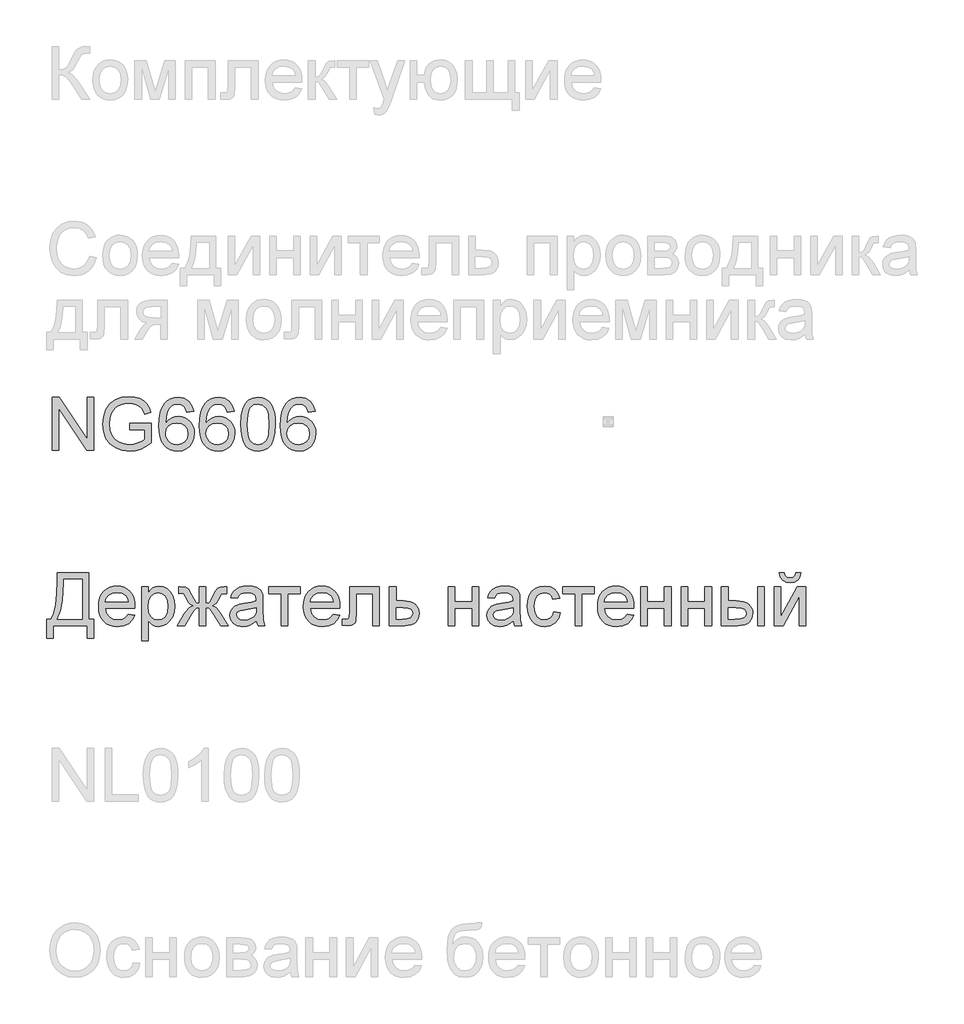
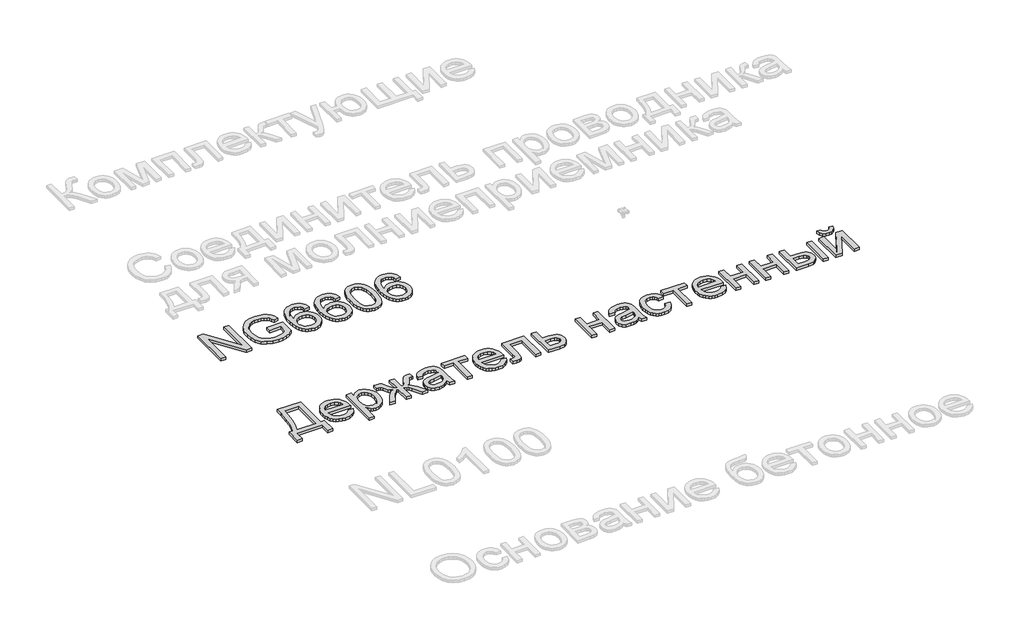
# One storey, part 59 of 124: 2 proxies.
"""IFC4 building model written with IfcOpenShell, lengths in millimetres."""

import ifcopenshell
import ifcopenshell.guid

model = None  # the IFC model being written
_history = None  # IfcOwnerHistory: only IFC2X3 demands one
_inside = {}  # id of a spatial element -> (the spatial element, [elements in it])
_under = {}  # id of a project, library or spatial element -> (it, [spatial elements below it])
_declared = {}  # id of a project -> (the project, [libraries it declares])
_typed = {}  # id of a type object -> (the type object, [elements of that type])
_made_of = {}  # id of a material, layer set ... -> (it, [elements and type objects made of it])


def new_model(schema):
    """Start an empty IFC model of exactly this schema.

    Asked for "IFC4X3", IfcOpenShell would pick the latest addendum, in which some entities
    have other attributes; the version numbers below select the first issue.
    IFC2X3 requires an IfcOwnerHistory on every rooted entity: one is made here for all.
    """
    global model, _history
    if schema == "IFC4X3":
        model = ifcopenshell.file(schema_version=(4, 3, 0, 0))
    else:
        model = ifcopenshell.file(schema=schema)
    _inside.clear()
    _under.clear()
    _declared.clear()
    _typed.clear()
    _made_of.clear()
    _history = None
    if model.schema == "IFC2X3":
        org = make("IfcOrganization", Name="unknown")
        user = make(
            "IfcPersonAndOrganization",
            ThePerson=make("IfcPerson", FamilyName="unknown"),
            TheOrganization=org,
        )
        app = make(
            "IfcApplication",
            ApplicationDeveloper=org,
            Version="unknown",
            ApplicationFullName="unknown",
            ApplicationIdentifier="unknown",
        )
        _history = make(
            "IfcOwnerHistory",
            OwningUser=user,
            OwningApplication=app,
            ChangeAction="ADDED",
            CreationDate=0,
        )
    return model


def make(cls, **values):
    """One entity of the class cls with the attributes given. An attribute that is None is left unset."""
    return model.create_entity(
        cls, **{name: value for name, value in values.items() if value is not None}
    )


def rooted(cls, **values):
    """An entity with a GlobalId (a new one), such as an element, a storey or a relation."""
    return make(cls, GlobalId=ifcopenshell.guid.new(), OwnerHistory=_history, **values)


def si_unit(unit_type, name, prefix=None):
    """IfcSIUnit, for example si_unit("LENGTHUNIT", "METRE", prefix="MILLI")."""
    return make("IfcSIUnit", UnitType=unit_type, Prefix=prefix, Name=name)


def assignment(units):
    """IfcUnitAssignment: the units of a project."""
    return None if units is None else make("IfcUnitAssignment", Units=units)


def point(xyz):
    """IfcCartesianPoint."""
    return None if xyz is None else make("IfcCartesianPoint", Coordinates=xyz)


def direction(xyz):
    """IfcDirection."""
    return None if xyz is None else make("IfcDirection", DirectionRatios=xyz)


def frame(location, z_axis=None, x_axis=None):
    """IfcAxis2Placement3D, a coordinate frame: its origin and axes. An axis left out is left unset."""
    return make(
        "IfcAxis2Placement3D",
        Location=point(location),
        Axis=direction(z_axis),
        RefDirection=direction(x_axis),
    )


def origin():
    """The frame at (0, 0, 0) with its axes left unset."""
    return frame((0.0, 0.0, 0.0))


def origin_with_axes():
    """The frame at (0, 0, 0) with the z axis (0, 0, 1) and the x axis (1, 0, 0) written out."""
    return frame((0.0, 0.0, 0.0), z_axis=(0.0, 0.0, 1.0), x_axis=(1.0, 0.0, 0.0))


def place(relative_to, where):
    """IfcLocalPlacement: puts the frame where relative to a parent placement (None: the world)."""
    return make(
        "IfcLocalPlacement", PlacementRelTo=relative_to, RelativePlacement=where
    )


def context(
    kind, dimensions, precision=None, world=None, true_north=None, identifier=None
):
    """IfcGeometricRepresentationContext, for example the 3D "Model" context."""
    return make(
        "IfcGeometricRepresentationContext",
        ContextIdentifier=identifier,
        ContextType=kind,
        CoordinateSpaceDimension=dimensions,
        Precision=precision,
        WorldCoordinateSystem=world,
        TrueNorth=true_north,
    )


def project(units=None, contexts=None):
    """IfcProject with its units and contexts."""
    return rooted(
        "IfcProject",
        Name="project",
        RepresentationContexts=contexts,
        UnitsInContext=assignment(units),
    )


def spatial(cls, under=None, at=None, **own):
    """A site, building, storey or space (cls), placed at a placement, below another one or the project."""
    s = rooted(cls, ObjectPlacement=at, **own)
    if under is not None:
        _under.setdefault(under.id(), (under, []))[1].append(s)
    return s


def polyline(points):
    """IfcPolyline through the points."""
    return make("IfcPolyline", Points=[point(p) for p in points])


def outline(outer, holes=None, kind="AREA"):
    """IfcArbitraryClosedProfileDef: a profile drawn as a closed curve; with holes, ...WithVoids."""
    if holes is None:
        return make("IfcArbitraryClosedProfileDef", ProfileType=kind, OuterCurve=outer)
    return make(
        "IfcArbitraryProfileDefWithVoids",
        ProfileType=kind,
        OuterCurve=outer,
        InnerCurves=holes,
    )


def extrude(swept, where, along, depth):
    """IfcExtrudedAreaSolid: the profile swept, set in the frame where, extruded along a direction by depth."""
    return make(
        "IfcExtrudedAreaSolid",
        SweptArea=swept,
        Position=where,
        ExtrudedDirection=direction(along),
        Depth=depth,
    )


def shape(context_of_items, identifier, shape_type, items):
    """IfcShapeRepresentation: the items that make up one representation, for example the "Body"."""
    return make(
        "IfcShapeRepresentation",
        ContextOfItems=context_of_items,
        RepresentationIdentifier=identifier,
        RepresentationType=shape_type,
        Items=items,
    )


def made_of(thing, what):
    """Note that an element or type object is made of a material, layer set ...; save() writes the relation."""
    if what is not None:
        _made_of.setdefault(what.id(), (what, []))[1].append(thing)
    return thing


def element(
    cls,
    number,
    at=None,
    inside=None,
    cuts=None,
    type_object=None,
    material=None,
    context=None,
    identifier="Body",
    shape_type=None,
    held_by="IfcProductDefinitionShape",
    body=None,
    shapes=None,
    **own,
):
    """One element of the class cls, such as IfcWall. Its Tag is "e" and its number.

    at: its placement. inside: the storey or other place that contains it. cuts: it is an
    opening in that element (IfcRelVoidsElement). A single representation is given by context,
    identifier, shape_type and body (its items); several are given by shapes. held_by: the class
    of the entity that holds the representations. save() writes the other relations.
    """
    e = rooted(cls, Tag="e%d" % number, ObjectPlacement=at, **own)
    if body is not None:
        shapes = [shape(context, identifier, shape_type, body)]
    if shapes is not None:
        e.Representation = make(held_by, Representations=shapes)
    if inside is not None:
        _inside.setdefault(inside.id(), (inside, []))[1].append(e)
    if cuts is not None:
        rooted(
            "IfcRelVoidsElement", RelatingBuildingElement=cuts, RelatedOpeningElement=e
        )
    if type_object is not None:
        _typed.setdefault(type_object.id(), (type_object, []))[1].append(e)
    return made_of(e, material)


def aggregate(whole, parts):
    """IfcRelAggregates: a whole, such as a stair, and the parts it consists of."""
    return rooted("IfcRelAggregates", RelatingObject=whole, RelatedObjects=parts)


def save(model, path):
    """Write the relations noted so far, then the file.

    IfcRelAggregates (storeys below a building ...), IfcRelContainedInSpatialStructure (elements
    in a storey), IfcRelDefinesByType, IfcRelAssociatesMaterial and IfcRelDeclares: one each for
    every whole, place, type object, material and project.
    """
    for whole, parts in _under.values():
        aggregate(whole, parts)
    for where, things in _inside.values():
        rooted(
            "IfcRelContainedInSpatialStructure",
            RelatedElements=things,
            RelatingStructure=where,
        )
    for kind, things in _typed.values():
        rooted("IfcRelDefinesByType", RelatedObjects=things, RelatingType=kind)
    for what, things in _made_of.values():
        rooted("IfcRelAssociatesMaterial", RelatedObjects=things, RelatingMaterial=what)
    for by, libraries in _declared.values():
        rooted("IfcRelDeclares", RelatingContext=by, RelatedDefinitions=libraries)
    model.write(path)


model = new_model("IFC4")

# Units and contexts
model_context = context("Model", 3, world=origin())
ifc_project = project(units=[si_unit("LENGTHUNIT", "METRE", prefix="MILLI")], contexts=[model_context])

# Site, building, storey
site = spatial("IfcSite", under=ifc_project)
building = spatial("IfcBuilding", under=site)
storey = spatial("IfcBuildingStorey", under=building, Name="Этаж 01", Elevation=0.0)

# Proxies
placement = place(None, origin())
element("IfcBuildingElementProxy", 1, Name="300", ObjectType="300", at=placement, inside=storey, context=model_context, shape_type="SweptSolid", body=[
    extrude(outline(polyline([(1299.8220677, -52074.498362), (1299.8220677, -51773.1294316), (1340.1419344, -51773.1294316), (1497.5954283, -52011.8848464), (1497.5954283, -51773.1294316), (1535.2665446, -51773.1294316), (1535.2665446, -52074.498362), (1494.9466779, -52074.498362), (1337.493184, -51835.6693707), (1337.493184, -52074.498362), (1299.8220677, -52074.498362)])), origin_with_axes(), (0.0, 0.0, 1.0), 20.0),
    extrude(outline(polyline([(1742.4576843, -51956.7761235), (1742.4576843, -51919.1050072), (1864.8888123, -51919.1050072), (1864.8888123, -52031.7504742), (1835.1363559, -52052.4438364), (1804.4458005, -52067.2878749), (1772.8907223, -52076.2274074), (1740.5446979, -52079.2072515), (1698.2842537, -52074.4707709), (1660.0889056, -52060.2613288), (1628.3590835, -52037.075566), (1605.4952175, -52005.4101233), (1591.6720515, -51967.4263073), (1587.0643295, -51925.2854248), (1591.6536574, -51882.8410396), (1605.4216411, -51843.3581044), (1627.7980634, -51810.2395278), (1658.2127074, -51786.8882182), (1695.2584243, -51773.0374611), (1737.5280656, -51768.420542), (1768.5589118, -51771.0968835), (1796.4627612, -51779.1259081), (1819.9612236, -51791.9282015), (1837.7759092, -51808.9243497), (1850.9552817, -51830.93289), (1860.5478047, -51858.77236), (1825.8197444, -51868.5580211), (1818.0666313, -51848.7015904), (1808.6396552, -51833.7195962), (1796.1684556, -51822.4256189), (1779.282672, -51813.6332392), (1759.1503298, -51807.9770535), (1736.9394544, -51806.0916583), (1710.9393944, -51808.1242063), (1688.7101248, -51814.2218504), (1670.3344191, -51823.6212354), (1655.8950508, -51835.5590061), (1636.5076697, -51864.5848956), (1627.6785018, -51893.0221738), (1624.7354458, -51923.7403204), (1628.27631, -51959.7651648), (1638.8989026, -51989.4072565), (1656.2813269, -52012.4550635), (1680.1016861, -52028.6970536), (1707.9779443, -52038.3263648), (1737.5280656, -52041.5361352), (1763.6200961, -52039.1173111), (1789.0683331, -52031.8608388), (1811.1688439, -52021.8636455), (1827.217696, -52011.2226588), (1827.217696, -51956.7761235), (1742.4576843, -51956.7761235)])), origin_with_axes(), (0.0, 0.0, 1.0), 20.0),
    extrude(outline(polyline([(2105.0421787, -51853.1805537), (2067.3710624, -51857.8894432), (2061.3010095, -51839.219432), (2053.097241, -51826.4723209), (2036.0091223, -51814.7184911), (2015.3525483, -51810.8005479), (1997.8413653, -51813.0814162), (1981.360252, -51819.9240213), (1967.2059922, -51834.3357985), (1955.6453005, -51854.1738351), (1947.8370051, -51882.2340343), (1944.9399344, -51921.3122992), (1960.0506874, -51903.6815546), (1978.1596786, -51891.2563402), (1998.2552326, -51883.8895033), (2019.3256739, -51881.4338909), (2037.425468, -51883.1123525), (2054.1273106, -51888.1477373), (2069.4312016, -51896.5400454), (2083.337141, -51908.2892766), (2094.8932342, -51922.6964552), (2103.1475865, -51939.0626055), (2108.1001978, -51957.3877274), (2109.7510683, -51977.6718209), (2106.6424654, -52004.6467682), (2097.3166568, -52029.6535468), (2082.5461947, -52050.8619438), (2063.1036313, -52066.4417463), (2039.8718833, -52076.0158752), (2013.7338675, -52079.2072515), (1991.276971, -52077.0919301), (1970.9951767, -52070.7459657), (1952.8884848, -52060.1693583), (1936.9568951, -52045.362108), (1923.9683614, -52025.6988153), (1914.6908374, -52000.554081), (1909.1243229, -51969.9279049), (1907.2688181, -51933.820287), (1909.3289573, -51893.339472), (1915.5093748, -51858.7907541), (1925.8100707, -51830.1741334), (1940.2310449, -51807.4896099), (1955.8614312, -51792.4570319), (1973.984218, -51781.7194761), (1994.5994053, -51775.2769427), (2017.7069931, -51773.1294316), (2050.7611903, -51778.4453264), (2077.2302999, -51794.3930109), (2095.7715525, -51819.7216862), (2105.0421787, -51853.1805537)]), holes=[polyline([(1944.9399344, -51977.0832097), (1947.1196353, -51993.7758552), (1953.6587377, -52009.7143427), (1963.8122808, -52023.417947), (1976.8353034, -52033.4059431), (1992.5530617, -52039.5035872), (2010.7908116, -52041.5361352), (2035.6504374, -52037.3238864), (2055.1941684, -52024.6871399), (2067.8585061, -52004.8215121), (2072.079952, -51978.9226197), (2067.9136884, -51954.0629938), (2055.4148976, -51935.107874), (2035.5400728, -51923.1057239), (2009.2457072, -51919.1050072), (1984.4228696, -51923.1057239), (1963.665128, -51935.107874), (1949.6212328, -51953.6031413), (1944.9399344, -51977.0832097)])]), origin_with_axes(), (0.0, 0.0, 1.0), 20.0),
    extrude(outline(polyline([(2335.7777661, -51853.1805537), (2298.1066498, -51857.8894432), (2292.0365969, -51839.219432), (2283.8328284, -51826.4723209), (2266.7447097, -51814.7184911), (2246.0881357, -51810.8005479), (2228.5769527, -51813.0814162), (2212.0958393, -51819.9240213), (2197.9415796, -51834.3357985), (2186.3808879, -51854.1738351), (2178.5725925, -51882.2340343), (2175.6755218, -51921.3122992), (2190.7862748, -51903.6815546), (2208.895266, -51891.2563402), (2228.99082, -51883.8895033), (2250.0612612, -51881.4338909), (2268.1610554, -51883.1123525), (2284.862898, -51888.1477373), (2300.166789, -51896.5400454), (2314.0727284, -51908.2892766), (2325.6288216, -51922.6964552), (2333.8831738, -51939.0626055), (2338.8357852, -51957.3877274), (2340.4866556, -51977.6718209), (2337.3780528, -52004.6467682), (2328.0522442, -52029.6535468), (2313.2817821, -52050.8619438), (2293.8392187, -52066.4417463), (2270.6074707, -52076.0158752), (2244.4694549, -52079.2072515), (2222.0125584, -52077.0919301), (2201.7307641, -52070.7459657), (2183.6240722, -52060.1693583), (2167.6924825, -52045.362108), (2154.7039488, -52025.6988153), (2145.4264248, -52000.554081), (2139.8599103, -51969.9279049), (2138.0044055, -51933.820287), (2140.0645447, -51893.339472), (2146.2449622, -51858.7907541), (2156.5456581, -51830.1741334), (2170.9666323, -51807.4896099), (2186.5970185, -51792.4570319), (2204.7198053, -51781.7194761), (2225.3349926, -51775.2769427), (2248.4425805, -51773.1294316), (2281.4967777, -51778.4453264), (2307.9658873, -51794.3930109), (2326.5071398, -51819.7216862), (2335.7777661, -51853.1805537)]), holes=[polyline([(2175.6755218, -51977.0832097), (2177.8552226, -51993.7758552), (2184.3943251, -52009.7143427), (2194.5478682, -52023.417947), (2207.5708908, -52033.4059431), (2223.288649, -52039.5035872), (2241.5263989, -52041.5361352), (2266.3860248, -52037.3238864), (2285.9297558, -52024.6871399), (2298.5940934, -52004.8215121), (2302.8155393, -51978.9226197), (2298.6492757, -51954.0629938), (2286.150485, -51935.107874), (2266.2756602, -51923.1057239), (2239.9812946, -51919.1050072), (2215.1584569, -51923.1057239), (2194.4007154, -51935.107874), (2180.3568202, -51953.6031413), (2175.6755218, -51977.0832097)])]), origin_with_axes(), (0.0, 0.0, 1.0), 20.0),
    extrude(outline(polyline([(2373.4488824, -51926.2419179), (2376.2171944, -51878.0033913), (2384.5221305, -51839.5321317), (2398.2809171, -51810.2395278), (2417.4107808, -51789.5369685), (2442.0496775, -51777.2313158), (2472.3355627, -51773.1294316), (2495.5489166, -51775.5574527), (2516.3342493, -51782.8415162), (2533.7166736, -51794.6965135), (2546.7213021, -51810.8373361), (2556.5437514, -51831.1260281), (2564.3796379, -51855.4246339), (2569.5115917, -51886.2807362), (2571.222243, -51926.2419179), (2568.4815222, -51974.2045331), (2560.2593596, -52012.5838222), (2546.5833464, -52041.9040172), (2527.4810738, -52062.68935), (2502.7869949, -52075.0777761), (2472.3355627, -52079.2072515), (2451.5870182, -52077.4138268), (2433.1929184, -52072.0335526), (2417.1532634, -52063.066429), (2403.4680532, -52050.5124559), (2390.334666, -52027.8187353), (2380.9536751, -51999.5424055), (2375.3250806, -51965.6834664), (2373.4488824, -51926.2419179)]), holes=[polyline([(2411.1199987, -51926.1683415), (2415.5345827, -51985.4249339), (2421.0528126, -52005.6929326), (2428.7783345, -52019.7207329), (2448.4968094, -52036.0822847), (2472.3355627, -52041.5361352), (2496.174316, -52036.0638906), (2515.892791, -52019.6471565), (2523.6183128, -52005.5963636), (2529.1365428, -51985.3329634), (2533.5511267, -51926.1683415), (2529.2836956, -51868.2453214), (2523.9494066, -51848.0440013), (2516.4814021, -51833.682808), (2496.7997154, -51816.5211129), (2471.8941043, -51810.8005479), (2448.3128684, -51815.8405312), (2429.3669457, -51830.9604812), (2421.3839064, -51846.595466), (2415.6817355, -51867.6751043), (2411.1199987, -51926.1683415)])]), origin_with_axes(), (0.0, 0.0, 1.0), 20.0),
    extrude(outline(polyline([(2797.2489409, -51853.1805537), (2759.5778246, -51857.8894432), (2753.5077716, -51839.219432), (2745.3040031, -51826.4723209), (2728.2158845, -51814.7184911), (2707.5593104, -51810.8005479), (2690.0481275, -51813.0814162), (2673.5670141, -51819.9240213), (2659.4127543, -51834.3357985), (2647.8520626, -51854.1738351), (2640.0437673, -51882.2340343), (2637.1466966, -51921.3122992), (2652.2574495, -51903.6815546), (2670.3664407, -51891.2563402), (2690.4619947, -51883.8895033), (2711.532436, -51881.4338909), (2729.6322301, -51883.1123525), (2746.3340727, -51888.1477373), (2761.6379637, -51896.5400454), (2775.5439031, -51908.2892766), (2787.0999963, -51922.6964552), (2795.3543486, -51939.0626055), (2800.3069599, -51957.3877274), (2801.9578304, -51977.6718209), (2798.8492275, -52004.6467682), (2789.523419, -52029.6535468), (2774.7529569, -52050.8619438), (2755.3103934, -52066.4417463), (2732.0786454, -52076.0158752), (2705.9406297, -52079.2072515), (2683.4837331, -52077.0919301), (2663.2019389, -52070.7459657), (2645.0952469, -52060.1693583), (2629.1636573, -52045.362108), (2616.1751236, -52025.6988153), (2606.8975995, -52000.554081), (2601.3310851, -51969.9279049), (2599.4755803, -51933.820287), (2601.5357194, -51893.339472), (2607.7161369, -51858.7907541), (2618.0168328, -51830.1741334), (2632.437807, -51807.4896099), (2648.0681933, -51792.4570319), (2666.1909801, -51781.7194761), (2686.8061674, -51775.2769427), (2709.9137552, -51773.1294316), (2742.9679525, -51778.4453264), (2769.437062, -51794.3930109), (2787.9783146, -51819.7216862), (2797.2489409, -51853.1805537)]), holes=[polyline([(2637.1466966, -51977.0832097), (2639.3263974, -51993.7758552), (2645.8654998, -52009.7143427), (2656.0190429, -52023.417947), (2669.0420655, -52033.4059431), (2684.7598238, -52039.5035872), (2702.9975737, -52041.5361352), (2727.8571995, -52037.3238864), (2747.4009305, -52024.6871399), (2760.0652682, -52004.8215121), (2764.2867141, -51978.9226197), (2760.1204505, -51954.0629938), (2747.6216597, -51935.107874), (2727.7468349, -51923.1057239), (2701.4524693, -51919.1050072), (2676.6296317, -51923.1057239), (2655.8718901, -51935.107874), (2641.8279949, -51953.6031413), (2637.1466966, -51977.0832097)])]), origin_with_axes(), (0.0, 0.0, 1.0), 20.0),
])
element("IfcBuildingElementProxy", 2, Name="300", ObjectType="300", at=placement, inside=storey, context=model_context, shape_type="SweptSolid", body=[
    extrude(outline(polyline([(1328.0754049, -52773.1294316), (1507.0132074, -52773.1294316), (1507.0132074, -53036.8272457), (1535.2665446, -53036.8272457), (1535.2665446, -53145.1317051), (1497.5954283, -53145.1317051), (1497.5954283, -53074.498362), (1304.5309572, -53074.498362), (1304.5309572, -53145.1317051), (1266.8598409, -53145.1317051), (1266.8598409, -53036.8272457), (1290.4042886, -53036.8272457), (1306.885402, -53002.6556069), (1318.6576258, -52954.5872257), (1325.7209602, -52892.6221021), (1328.0754049, -52816.7602362), (1328.0754049, -52773.1294316)]), holes=[polyline([(1469.3420911, -52810.8005479), (1365.7465212, -52810.8005479), (1365.7465212, -52825.9572861), (1358.0945757, -52929.1849739), (1346.7638103, -52988.8370394), (1328.0754049, -53036.8272457), (1469.3420911, -53036.8272457), (1469.3420911, -52810.8005479)])]), origin_with_axes(), (0.0, 0.0, 1.0), 20.0),
    extrude(outline(polyline([(1732.5984468, -53008.5739085), (1769.5337991, -53013.282798), (1756.225668, -53041.1130709), (1734.9896798, -53061.9167978), (1706.3040812, -53074.8846381), (1670.6471188, -53079.2072515), (1647.2728166, -53077.3425497), (1626.4460971, -53071.7484441), (1608.1669605, -53062.4249348), (1592.4354067, -53049.3720217), (1579.7848645, -53032.9529884), (1570.748763, -53013.5311184), (1565.3271021, -52991.1064115), (1563.5198818, -52965.6788678), (1565.3454962, -52939.3891007), (1570.8223394, -52916.2171336), (1579.9504114, -52896.1629663), (1592.7297123, -52879.226599), (1608.4198793, -52865.771315), (1626.2805502, -52856.1603979), (1646.3117249, -52850.3938476), (1668.5134033, -52848.4716642), (1690.000011, -52850.3892491), (1709.4310782, -52856.1420038), (1726.8066047, -52865.7299283), (1742.1265905, -52879.1530226), (1754.6322791, -52896.0526017), (1763.5649138, -52916.0699808), (1768.9244946, -52939.2051598), (1770.7110215, -52965.4581386), (1770.4902923, -52975.6116817), (1601.1909981, -52975.6116817), (1607.7117065, -53003.8098366), (1622.8592477, -53024.5399871), (1644.7206352, -53037.2870982), (1671.3828828, -53041.5361352), (1691.4324516, -53039.5679666), (1708.3182351, -53033.6634605), (1722.0402336, -53023.4547352), (1732.5984468, -53008.5739085)]), holes=[polyline([(1601.1909981, -52937.9405654), (1733.0399052, -52937.9405654), (1727.9447396, -52918.0381495), (1717.9567434, -52903.8011162), (1695.9941883, -52890.5573644), (1668.3662505, -52886.1427805), (1642.9731957, -52889.6652506), (1621.9763309, -52900.2326609), (1607.3806127, -52916.7045772), (1601.1909981, -52937.9405654)])]), origin_with_axes(), (0.0, 0.0, 1.0), 20.0),
    extrude(outline(polyline([(1808.3821378, -53159.2583737), (1808.3821378, -52853.1805537), (1846.0532541, -52853.1805537), (1846.0532541, -52890.115906), (1858.3405128, -52871.8965502), (1872.0992994, -52858.8827246), (1888.1389544, -52851.0744293), (1907.2688181, -52848.4716642), (1932.7446463, -52852.1136959), (1955.0199011, -52863.0397912), (1973.1564835, -52880.5877623), (1986.2162943, -52904.0954218), (1994.1073631, -52931.8521184), (1996.7377194, -52962.1472007), (1993.7670722, -52994.3644664), (1984.8551309, -53023.1788237), (1970.2870039, -53047.1279416), (1950.3477998, -53064.7494891), (1927.1252488, -53075.5928109), (1902.7070814, -53079.2072515), (1885.3890365, -53076.7884274), (1869.9287956, -53069.5319551), (1856.6942408, -53058.5782687), (1846.0532541, -53045.0678024), (1846.0532541, -53159.2583737), (1808.3821378, -53159.2583737)]), holes=[polyline([(1846.0532541, -52965.6052914), (1850.1275472, -52999.3768586), (1862.3504265, -53022.9948827), (1880.3858413, -53036.9008221), (1901.897741, -53041.5361352), (1923.7591286, -53036.7352752), (1942.2543959, -53022.3326951), (1954.8635513, -52997.8501483), (1959.0666031, -52962.8093883), (1954.9647188, -52929.2217621), (1942.6590661, -52905.2726442), (1924.6512424, -52890.9252464), (1903.4428454, -52886.1427805), (1882.1516749, -52891.2287491), (1863.4540725, -52906.4866548), (1850.4034587, -52931.4382511), (1846.0532541, -52965.6052914)])]), origin_with_axes(), (0.0, 0.0, 1.0), 20.0),
    extrude(outline(polyline([(2175.6755218, -52853.1805537), (2175.6755218, -52947.3583445), (2188.9652589, -52945.4177669), (2197.6380769, -52939.5960344), (2218.4234097, -52899.3129559), (2231.39125, -52874.2050097), (2243.2186561, -52860.6853464), (2257.584448, -52855.0567519), (2278.4617513, -52853.1805537), (2293.3977603, -52853.1805537), (2293.3977603, -52891.0723992), (2283.023488, -52890.85167), (2263.5993187, -52894.7512192), (2250.1348376, -52919.1785836), (2234.4998528, -52945.9603929), (2212.1694157, -52959.5720267), (2224.5624404, -52964.874126), (2236.7991153, -52974.2321242), (2260.8034155, -53005.1158177), (2302.8155393, -53074.498362), (2259.6261931, -53074.498362), (2218.2762569, -53006.0723109), (2206.9730826, -52988.1104725), (2197.1966185, -52977.6350327), (2187.3097899, -52972.5858523), (2175.6755218, -52970.9027922), (2175.6755218, -53074.498362), (2138.0044055, -53074.498362), (2138.0044055, -52970.9027922), (2126.4621079, -52972.5490641), (2116.5568852, -52977.4878799), (2106.7068448, -52987.8897433), (2095.3300941, -53005.9251581), (2053.9801578, -53074.498362), (2010.864388, -53074.498362), (2052.729359, -53005.1158177), (2076.9176002, -52974.2321242), (2089.2186544, -52964.874126), (2101.6576644, -52959.5720267), (2087.2734784, -52952.3615396), (2077.9660639, -52944.5624413), (2057.6589778, -52905.9348318), (2047.7261639, -52893.2061148), (2031.4657797, -52890.6309408), (2020.282167, -52890.85167), (2020.282167, -52853.1805537), (2025.9475498, -52853.1805537), (2058.9833529, -52855.5349985), (2076.1266539, -52865.5413887), (2095.3300941, -52899.3129559), (2115.8946976, -52939.338517), (2124.5675156, -52945.3533876), (2138.0044055, -52947.3583445), (2138.0044055, -52853.1805537), (2175.6755218, -52853.1805537)])), origin_with_axes(), (0.0, 0.0, 1.0), 20.0),
    extrude(outline(polyline([(2462.9177836, -53046.2450248), (2444.919157, -53061.6776745), (2426.3871015, -53071.7760352), (2406.8985528, -53077.3494475), (2386.0304467, -53079.2072515), (2354.5489449, -53074.7374853), (2331.326394, -53061.3281866), (2317.0065873, -53040.9659181), (2312.2333184, -53015.6372428), (2314.0359402, -53000.0206521), (2319.4438055, -52985.8388012), (2327.7855298, -52973.6986953), (2338.3897283, -52964.2073398), (2364.7668673, -52951.8465048), (2397.3612121, -52946.1811221), (2435.878457, -52940.2214338), (2462.6970544, -52933.2316759), (2462.9177836, -52924.8439664), (2460.3242156, -52908.0317592), (2452.5435114, -52897.0320875), (2435.142693, -52888.8651072), (2410.8992695, -52886.1427805), (2388.4584678, -52887.9545993), (2372.7866948, -52893.3900558), (2362.0997229, -52903.4424313), (2354.6133243, -52919.1050072), (2316.942208, -52914.3961177), (2323.4813104, -52893.794726), (2333.2393803, -52877.6079182), (2347.1269257, -52865.228689), (2366.0544543, -52856.0500333), (2389.2034289, -52850.3662564), (2415.7553119, -52848.4716642), (2441.221943, -52850.1455272), (2461.4094675, -52855.1671165), (2476.630585, -52862.7178944), (2487.1979953, -52871.9793237), (2494.2061473, -52883.4296508), (2498.74949, -52897.5471223), (2500.5889, -52930.5093491), (2500.5889, -52977.3775153), (2502.5018863, -53042.8237222), (2510.006679, -53074.498362), (2472.3355627, -53074.498362), (2462.9177836, -53046.2450248)]), holes=[polyline([(2462.9177836, -52970.9027922), (2402.143678, -52982.4542868), (2369.7332743, -52988.5611279), (2355.0547827, -52998.4939418), (2349.9044347, -53012.9884924), (2352.7095349, -53024.1904992), (2361.1248356, -53033.3691549), (2374.9663956, -53039.4943902), (2394.0502741, -53041.5361352), (2414.2837839, -53039.282858), (2432.1628488, -53032.5230264), (2446.6573995, -53022.5626213), (2456.7373661, -53010.707624), (2461.2071324, -52998.4939418), (2462.6970544, -52981.57137), (2462.9177836, -52970.9027922)])]), origin_with_axes(), (0.0, 0.0, 1.0), 20.0),
    extrude(outline(polyline([(2533.5511267, -52853.1805537), (2712.4889292, -52853.1805537), (2712.4889292, -52890.85167), (2641.8555861, -52890.85167), (2641.8555861, -53074.498362), (2604.1844698, -53074.498362), (2604.1844698, -52890.85167), (2533.5511267, -52890.85167), (2533.5511267, -52853.1805537)])), origin_with_axes(), (0.0, 0.0, 1.0), 20.0),
    extrude(outline(polyline([(2900.4030523, -53008.5739085), (2937.3384046, -53013.282798), (2924.0302734, -53041.1130709), (2902.7942853, -53061.9167978), (2874.1086867, -53074.8846381), (2838.4517243, -53079.2072515), (2815.0774221, -53077.3425497), (2794.2507026, -53071.7484441), (2775.971566, -53062.4249348), (2760.2400121, -53049.3720217), (2747.58947, -53032.9529884), (2738.5533685, -53013.5311184), (2733.1317076, -52991.1064115), (2731.3244873, -52965.6788678), (2733.1501017, -52939.3891007), (2738.6269449, -52916.2171336), (2747.7550169, -52896.1629663), (2760.5343177, -52879.226599), (2776.2244848, -52865.771315), (2794.0851557, -52856.1603979), (2814.1163303, -52850.3938476), (2836.3180087, -52848.4716642), (2857.8046165, -52850.3892491), (2877.2356837, -52856.1420038), (2894.6112101, -52865.7299283), (2909.931196, -52879.1530226), (2922.4368846, -52896.0526017), (2931.3695193, -52916.0699808), (2936.7291001, -52939.2051598), (2938.515627, -52965.4581386), (2938.2948978, -52975.6116817), (2768.9956036, -52975.6116817), (2775.516312, -53003.8098366), (2790.6638531, -53024.5399871), (2812.5252407, -53037.2870982), (2839.1874883, -53041.5361352), (2859.237057, -53039.5679666), (2876.1228406, -53033.6634605), (2889.844839, -53023.4547352), (2900.4030523, -53008.5739085)]), holes=[polyline([(2768.9956036, -52937.9405654), (2900.8445107, -52937.9405654), (2895.7493451, -52918.0381495), (2885.7613489, -52903.8011162), (2863.7987938, -52890.5573644), (2836.170856, -52886.1427805), (2810.7778012, -52889.6652506), (2789.7809364, -52900.2326609), (2775.1852182, -52916.7045772), (2768.9956036, -52937.9405654)])]), origin_with_axes(), (0.0, 0.0, 1.0), 20.0),
    extrude(outline(polyline([(2995.0223015, -52853.1805537), (3164.5423248, -52853.1805537), (3164.5423248, -53074.2776328), (3126.8712085, -53074.2776328), (3126.8712085, -52890.85167), (3032.6934178, -52890.85167), (3032.6934178, -52996.4338026), (3030.155032, -53045.1413788), (3025.4001572, -53056.1686416), (3016.2123044, -53065.7059823), (3002.2695768, -53072.3002671), (2983.2500776, -53074.498362), (2952.6422956, -53072.5853756), (2952.6422956, -53036.8272457), (2969.491291, -53036.8272457), (2986.5242274, -53034.5095891), (2993.3300443, -53027.1519492), (2995.0223015, -52994.3000871), (2995.0223015, -52853.1805537)])), origin_with_axes(), (0.0, 0.0, 1.0), 20.0),
    extrude(outline(polyline([(3221.0489993, -52853.1805537), (3258.7201156, -52853.1805537), (3258.7201156, -52933.2316759), (3302.130191, -52933.2316759), (3339.7645191, -52937.9497624), (3354.9120603, -52943.8473707), (3367.6131862, -52952.1040222), (3377.6563647, -52962.4346085), (3384.8300636, -52974.554021), (3390.5690227, -53004.1593245), (3385.6853892, -53031.1158777), (3371.0344887, -53053.8601821), (3359.8025916, -53062.8893858), (3345.641434, -53069.338817), (3308.5313378, -53074.498362), (3221.0489993, -53074.498362), (3221.0489993, -52853.1805537)]), holes=[polyline([(3258.7201156, -53036.8272457), (3293.8896344, -53036.8272457), (3321.1772813, -53034.84988), (3339.3230608, -53028.9177828), (3349.504195, -53018.7918309), (3352.8979064, -53004.2329009), (3350.3871118, -52991.9272482), (3342.8547279, -52981.0563352), (3326.7139054, -52973.4411779), (3298.3777947, -52970.9027922), (3258.7201156, -52970.9027922), (3258.7201156, -53036.8272457)])]), origin_with_axes(), (0.0, 0.0, 1.0), 20.0),
    extrude(outline(polyline([(3555.3801565, -52853.1805537), (3593.0512728, -52853.1805537), (3593.0512728, -52937.9405654), (3691.9379531, -52937.9405654), (3691.9379531, -52853.1805537), (3729.6090694, -52853.1805537), (3729.6090694, -53074.498362), (3691.9379531, -53074.498362), (3691.9379531, -52975.6116817), (3593.0512728, -52975.6116817), (3593.0512728, -53074.498362), (3555.3801565, -53074.498362), (3555.3801565, -52853.1805537)])), origin_with_axes(), (0.0, 0.0, 1.0), 20.0),
    extrude(outline(polyline([(3927.38243, -53046.2450248), (3909.3838034, -53061.6776745), (3890.8517479, -53071.7760352), (3871.3631992, -53077.3494475), (3850.4950931, -53079.2072515), (3819.0135913, -53074.7374853), (3795.7910404, -53061.3281866), (3781.4712337, -53040.9659181), (3776.6979648, -53015.6372428), (3778.5005866, -53000.0206521), (3783.9084519, -52985.8388012), (3792.2501762, -52973.6986953), (3802.8543747, -52964.2073398), (3829.2315137, -52951.8465048), (3861.8258585, -52946.1811221), (3900.3431034, -52940.2214338), (3927.1617008, -52933.2316759), (3927.38243, -52924.8439664), (3924.788862, -52908.0317592), (3917.0081578, -52897.0320875), (3899.6073394, -52888.8651072), (3875.3639159, -52886.1427805), (3852.9231142, -52887.9545993), (3837.2513412, -52893.3900558), (3826.5643693, -52903.4424313), (3819.0779707, -52919.1050072), (3781.4068544, -52914.3961177), (3787.9459568, -52893.794726), (3797.7040267, -52877.6079182), (3811.5915721, -52865.228689), (3830.5191007, -52856.0500333), (3853.6680753, -52850.3662564), (3880.2199583, -52848.4716642), (3905.6865894, -52850.1455272), (3925.8741139, -52855.1671165), (3941.0952314, -52862.7178944), (3951.6626417, -52871.9793237), (3958.6707937, -52883.4296508), (3963.2141364, -52897.5471223), (3965.0535464, -52930.5093491), (3965.0535464, -52977.3775153), (3966.9665327, -53042.8237222), (3974.4713254, -53074.498362), (3936.8002091, -53074.498362), (3927.38243, -53046.2450248)]), holes=[polyline([(3927.38243, -52970.9027922), (3866.6083244, -52982.4542868), (3834.1979207, -52988.5611279), (3819.5194291, -52998.4939418), (3814.3690811, -53012.9884924), (3817.1741813, -53024.1904992), (3825.589482, -53033.3691549), (3839.431042, -53039.4943902), (3858.5149205, -53041.5361352), (3878.7484303, -53039.282858), (3896.6274952, -53032.5230264), (3911.1220459, -53022.5626213), (3921.2020125, -53010.707624), (3925.6717788, -52998.4939418), (3927.1617008, -52981.57137), (3927.38243, -52970.9027922)])]), origin_with_axes(), (0.0, 0.0, 1.0), 20.0),
    extrude(outline(polyline([(4158.1180174, -52994.4472399), (4195.7891337, -52999.1561294), (4185.2861028, -53032.6609821), (4165.5492337, -53057.9804604), (4138.4363307, -53073.9005538), (4105.8051977, -53079.2072515), (4084.6772749, -53077.3563453), (4065.7336514, -53071.8036264), (4048.9743272, -53062.5490949), (4034.3993024, -53049.5927509), (4022.6017867, -53033.1783162), (4014.1749898, -53013.5495125), (4009.1189116, -52990.7063398), (4007.4335522, -52964.6487982), (4010.3122288, -52931.1255514), (4018.9482586, -52902.0720709), (4033.4795975, -52878.6103966), (4054.044201, -52861.8625688), (4078.6463094, -52851.8193903), (4105.2901629, -52848.4716642), (4137.1211525, -52853.0701891), (4162.5693896, -52866.8657639), (4180.8255336, -52889.1226246), (4191.0802442, -52919.1050072), (4153.4091279, -52923.8138968), (4146.5757198, -52907.3787686), (4135.9347331, -52895.5973477), (4122.0747789, -52888.5064223), (4105.5844685, -52886.1427805), (4081.2398775, -52890.7964877), (4061.9168757, -52904.7576094), (4049.3077203, -52928.7803037), (4045.1046685, -52963.6187287), (4049.2157498, -52998.9262031), (4061.5489937, -53023.0316709), (4080.5225076, -53036.9100191), (4104.5543989, -53041.5361352), (4124.0613417, -53038.6482616), (4140.0550115, -53029.9846406), (4151.6892796, -53015.3245431), (4158.1180174, -52994.4472399)])), origin_with_axes(), (0.0, 0.0, 1.0), 20.0),
    extrude(outline(polyline([(4209.9158023, -52853.1805537), (4388.8536048, -52853.1805537), (4388.8536048, -52890.85167), (4318.2202617, -52890.85167), (4318.2202617, -53074.498362), (4280.5491454, -53074.498362), (4280.5491454, -52890.85167), (4209.9158023, -52890.85167), (4209.9158023, -52853.1805537)])), origin_with_axes(), (0.0, 0.0, 1.0), 20.0),
    extrude(outline(polyline([(4576.7677279, -53008.5739085), (4613.7030802, -53013.282798), (4600.3949491, -53041.1130709), (4579.1589609, -53061.9167978), (4550.4733623, -53074.8846381), (4514.8163999, -53079.2072515), (4491.4420977, -53077.3425497), (4470.6153782, -53071.7484441), (4452.3362416, -53062.4249348), (4436.6046878, -53049.3720217), (4423.9541457, -53032.9529884), (4414.9180442, -53013.5311184), (4409.4963832, -52991.1064115), (4407.6891629, -52965.6788678), (4409.5147773, -52939.3891007), (4414.9916206, -52916.2171336), (4424.1196926, -52896.1629663), (4436.8989934, -52879.226599), (4452.5891605, -52865.771315), (4470.4498313, -52856.1603979), (4490.481006, -52850.3938476), (4512.6826844, -52848.4716642), (4534.1692922, -52850.3892491), (4553.6003593, -52856.1420038), (4570.9758858, -52865.7299283), (4586.2958716, -52879.1530226), (4598.8015602, -52896.0526017), (4607.7341949, -52916.0699808), (4613.0937757, -52939.2051598), (4614.8803026, -52965.4581386), (4614.6595734, -52975.6116817), (4445.3602793, -52975.6116817), (4451.8809876, -53003.8098366), (4467.0285288, -53024.5399871), (4488.8899163, -53037.2870982), (4515.5521639, -53041.5361352), (4535.6017327, -53039.5679666), (4552.4875162, -53033.6634605), (4566.2095147, -53023.4547352), (4576.7677279, -53008.5739085)]), holes=[polyline([(4445.3602793, -52937.9405654), (4577.2091863, -52937.9405654), (4572.1140207, -52918.0381495), (4562.1260245, -52903.8011162), (4540.1634694, -52890.5573644), (4512.5355316, -52886.1427805), (4487.1424769, -52889.6652506), (4466.145612, -52900.2326609), (4451.5498938, -52916.7045772), (4445.3602793, -52937.9405654)])]), origin_with_axes(), (0.0, 0.0, 1.0), 20.0),
    extrude(outline(polyline([(4652.5514189, -52853.1805537), (4690.2225352, -52853.1805537), (4690.2225352, -52937.9405654), (4789.1092155, -52937.9405654), (4789.1092155, -52853.1805537), (4826.7803319, -52853.1805537), (4826.7803319, -53074.498362), (4789.1092155, -53074.498362), (4789.1092155, -52975.6116817), (4690.2225352, -52975.6116817), (4690.2225352, -53074.498362), (4652.5514189, -53074.498362), (4652.5514189, -52853.1805537)])), origin_with_axes(), (0.0, 0.0, 1.0), 20.0),
    extrude(outline(polyline([(4883.2870063, -52853.1805537), (4920.9581226, -52853.1805537), (4920.9581226, -52937.9405654), (5019.8448029, -52937.9405654), (5019.8448029, -52853.1805537), (5057.5159192, -52853.1805537), (5057.5159192, -53074.498362), (5019.8448029, -53074.498362), (5019.8448029, -52975.6116817), (4920.9581226, -52975.6116817), (4920.9581226, -53074.498362), (4883.2870063, -53074.498362), (4883.2870063, -52853.1805537)])), origin_with_axes(), (0.0, 0.0, 1.0), 20.0),
    extrude(outline(polyline([(5321.2137334, -52853.1805537), (5358.8848497, -52853.1805537), (5358.8848497, -53074.498362), (5321.2137334, -53074.498362), (5321.2137334, -52853.1805537)])), origin_with_axes(), (0.0, 0.0, 1.0), 20.0),
    extrude(outline(polyline([(5114.0225937, -52853.1805537), (5151.69371, -52853.1805537), (5151.69371, -52933.2316759), (5198.2675706, -52933.2316759), (5238.5230579, -52937.9497624), (5254.7397561, -52943.8473707), (5268.3490907, -52952.1040222), (5279.1165368, -52962.4346085), (5286.8075698, -52974.554021), (5291.4221895, -52988.4622596), (5292.9603961, -53004.1593245), (5287.8008512, -53031.1158777), (5272.3222162, -53053.8601821), (5260.4603211, -53062.8893858), (5245.5128158, -53069.338817), (5206.3609745, -53074.498362), (5114.0225937, -53074.498362), (5114.0225937, -52853.1805537)]), holes=[polyline([(5151.69371, -53036.8272457), (5190.3948959, -53036.8272457), (5220.3956726, -53034.84988), (5240.3532708, -53028.9177828), (5251.5552776, -53018.7918309), (5255.2892798, -53004.2329009), (5252.5209678, -52991.9272482), (5244.2160318, -52981.0563352), (5226.4565285, -52973.4411779), (5195.3245146, -52970.9027922), (5151.69371, -52970.9027922), (5151.69371, -53036.8272457)])]), origin_with_axes(), (0.0, 0.0, 1.0), 20.0),
    extrude(outline(polyline([(5415.3915241, -52853.1805537), (5453.0626404, -52853.1805537), (5453.0626404, -53021.9648131), (5545.6217504, -52853.1805537), (5594.3293266, -52853.1805537), (5594.3293266, -53074.498362), (5556.6582103, -53074.498362), (5556.6582103, -52906.7441722), (5464.6877115, -53074.498362), (5415.3915241, -53074.498362), (5415.3915241, -52853.1805537)])), origin_with_axes(), (0.0, 0.0, 1.0), 20.0),
    extrude(outline(polyline([(5537.8226521, -52773.1294316), (5566.0759894, -52773.1294316), (5559.9967394, -52797.2532934), (5547.7922542, -52815.0311908), (5530.0143568, -52825.9848772), (5507.2148701, -52829.636106), (5482.474806, -52826.0124684), (5463.2897599, -52815.1415554), (5450.1747668, -52797.3912491), (5443.6448614, -52773.1294316), (5471.8981986, -52773.1294316), (5475.8713241, -52785.5362518), (5482.4932001, -52794.3562227), (5491.8006145, -52799.6261323), (5503.8303558, -52801.3827688), (5517.4052014, -52799.6813146), (5527.2276507, -52794.5769519), (5533.8495266, -52785.8121633), (5537.8226521, -52773.1294316)])), origin_with_axes(), (0.0, 0.0, 1.0), 20.0),
])

save(model, "model.ifc")
